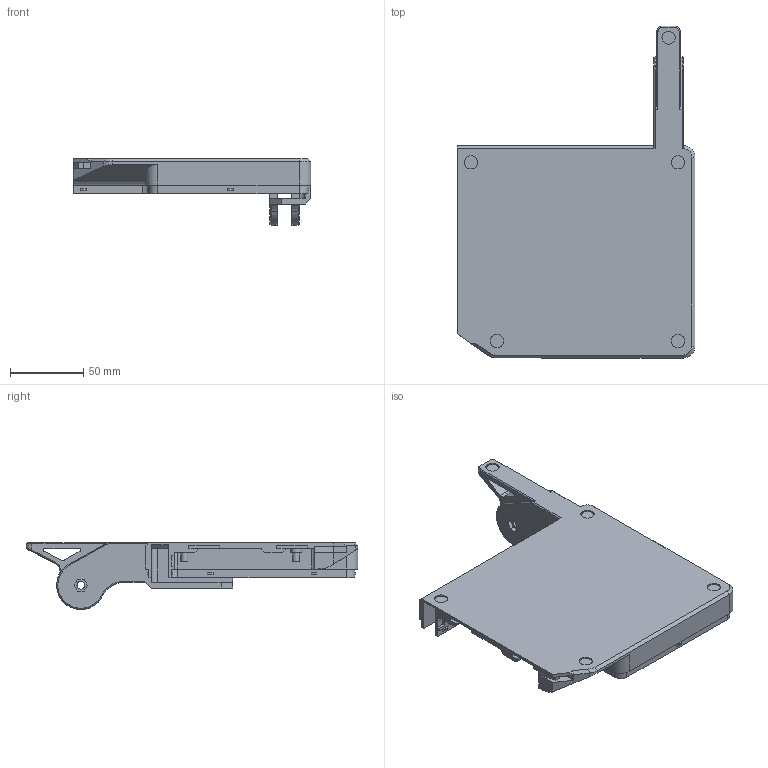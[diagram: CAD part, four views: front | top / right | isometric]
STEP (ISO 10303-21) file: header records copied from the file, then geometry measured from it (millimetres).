
FILE_DESCRIPTION(/* description */ ('STEP AP242','CAx-IF Rec.Pracs.---Representation and Presentation of Product Manufacturing Information (PMI)---4.0---2014-10-13','CAx-IF Rec.Pracs.---3D Tessellated Geometry---0.4---2014-09-14','2;1'),/* implementation_level */ '2;1');
FILE_NAME(/* name */ 'Base Shell - Left Base',/* time_stamp */ '2025-07-21T16:38:39Z',/* author */ (''),/* organization */ (''),/* preprocessor_version */ 'ST-DEVELOPER v20',/* originating_system */ 'ONSHAPE BY PTC INC, 1.201',/* authorisation */ ' ');
FILE_SCHEMA (('AP242_MANAGED_MODEL_BASED_3D_ENGINEERING_MIM_LF { 1 0 10303 442 1 1 4 }'));
Length unit declared in the file: metre
Products named in the file (1): Left Base
Bounding box: 162.07 x 226.19 x 45.45 mm (x, y, z)
Volume: 176836.5 mm3; surface area: 88445.6 mm2
Topology: 1 solids, 1 shells, 276 faces, 742 edges, 486 vertices
Faces by surface type: plane 186, cylinder 71, cone 17, bspline 2
Full cylindrical faces by diameter (mm): 1.4 x2, 4.8 x2, 5.3 x2, 7.5 x1, 9 x5, 9.75 x1
Entity records: 8590 total; most frequent: CARTESIAN_POINT 1573, ORIENTED_EDGE 1452, DIRECTION 1426, EDGE_CURVE 726, LINE 550, VECTOR 550, VERTEX_POINT 483, AXIS2_PLACEMENT_3D 438
